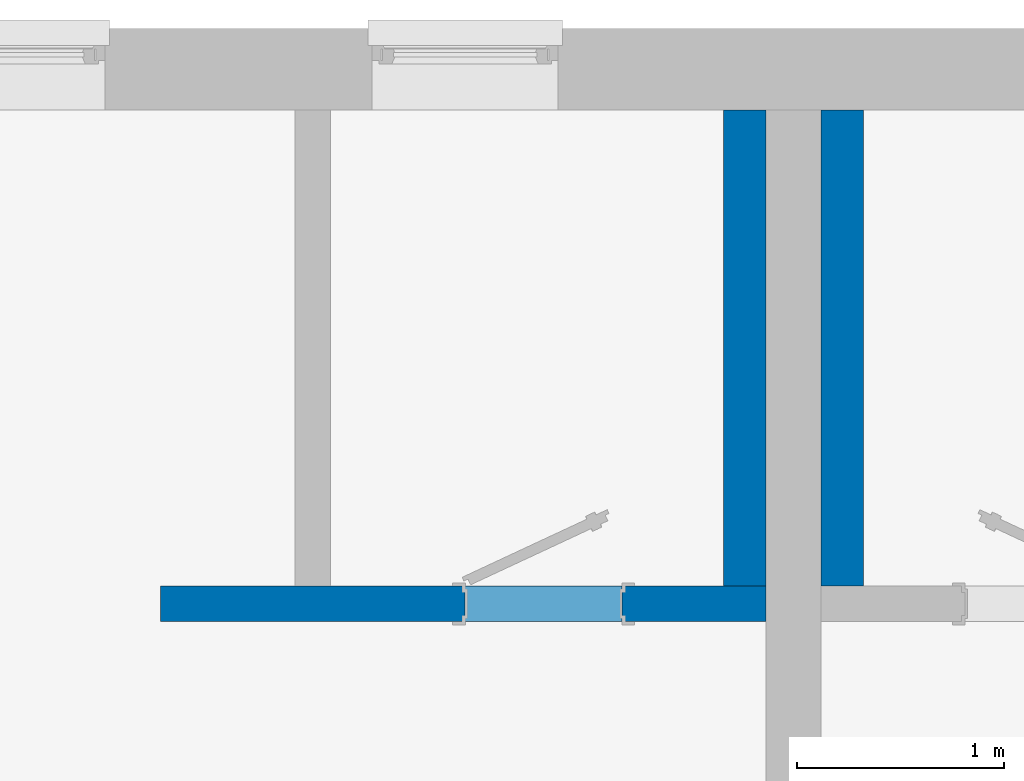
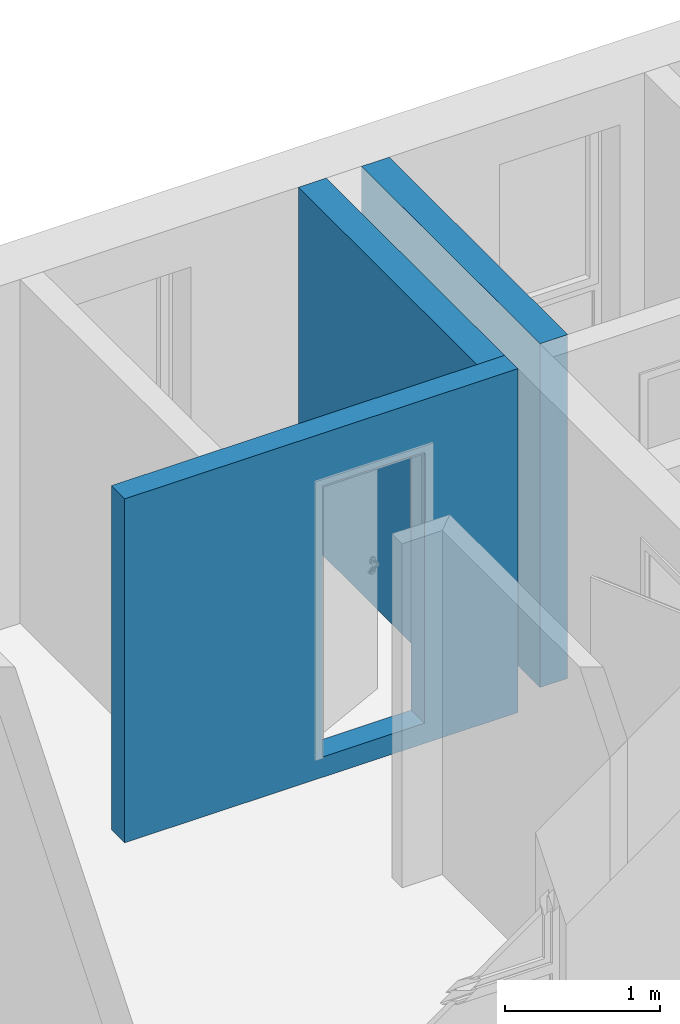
# One storey, part 8 of 16: 3 walls, 1 opening.
"""IFC2X3 building model written with IfcOpenShell, lengths in millimetres."""

from ifc_helpers import new_model, si_unit, frame, origin_with_axes, place, context, project, spatial, faceted_brep, material, layer, layer_set, layer_usage, element, save


model = new_model("IFC2X3")

# Units and contexts
model_context = context("Model", 3, world=origin_with_axes())
ifc_project = project(units=[si_unit("LENGTHUNIT", "METRE", prefix="MILLI")], contexts=[model_context])

# Site, building, storey
site_placement = place(None, origin_with_axes())
site = spatial("IfcSite", under=ifc_project, at=site_placement, Name="Site", CompositionType="ELEMENT")
building_placement = place(site_placement, origin_with_axes())
building = spatial("IfcBuilding", under=site, at=building_placement, Name="?", CompositionType="ELEMENT")
storey_placement = place(building_placement, frame((0.0, 0.0, 2969.0), z_axis=(0.0, 0.0, 1.0), x_axis=(1.0, 0.0, 0.0)))
storey = spatial("IfcBuildingStorey", under=building, at=storey_placement, Name="Obergeschoß 1", CompositionType="ELEMENT", Elevation=2969.0)

# Wall
ifc_material = material(Name="Material_IW")
ifc_layer_1 = layer(ifc_material, 206.0, ventilated=False)
ifc_layer_set_1 = layer_set([ifc_layer_1], Name="MaterialLayerSet_IW")
ifc_layer_usage_1 = layer_usage(ifc_layer_set_1, "AXIS2", "NEGATIVE", 103.0)
wall_1_placement = place(storey_placement, frame((9998.0, -2697.0, 0.0), z_axis=(0.0, 0.0, 1.0), x_axis=(0.0, 1.0, 0.0)))
element("IfcWall", 1, at=wall_1_placement, inside=storey, material=ifc_layer_usage_1, Name="IW-28", context=model_context, shape_type="Brep", body=[
    faceted_brep([(2302.0, -103.0, 0.0), (2302.0, -103.0, 2707.0), (0.0, -103.0, 2707.0), (0.0, -103.0, 0.0), (2302.0, 103.0, 0.0), (2302.0, 103.0, 2707.0), (2302.0, -103.0, 2707.0), (2302.0, -103.0, 0.0), (0.0, 103.0, 0.0), (0.0, 103.0, 2707.0), (2302.0, 103.0, 2707.0), (2302.0, 103.0, 0.0), (0.0, -103.0, 0.0), (0.0, -103.0, 2707.0), (0.0, 103.0, 2707.0), (0.0, 103.0, 0.0), (0.0, -103.0, 0.0), (0.0, 103.0, 0.0), (2302.0, 103.0, 0.0), (2302.0, -103.0, 0.0), (0.0, -103.0, 2707.0), (2302.0, -103.0, 2707.0), (2302.0, 103.0, 2707.0), (0.0, 103.0, 2707.0)], [[[0, 1, 2, 3]], [[4, 5, 6, 7]], [[8, 9, 10, 11]], [[12, 13, 14, 15]], [[16, 17, 18, 19]], [[20, 21, 22, 23]]]),
])

# Wall, opening
ifc_layer_2 = layer(ifc_material, 172.0, ventilated=False)
ifc_layer_set_2 = layer_set([ifc_layer_2], Name="MaterialLayerSet_IW")
ifc_layer_usage_2 = layer_usage(ifc_layer_set_2, "AXIS2", "NEGATIVE", 86.0)
wall_2_placement = place(storey_placement, frame((9631.0, -2783.0, 0.0), z_axis=(0.0, 0.0, 1.0), x_axis=(-1.0, 0.0, 0.0)))
wall_2 = element("IfcWall", 2, at=wall_2_placement, inside=storey, material=ifc_layer_usage_2, Name="IW-30", context=model_context, shape_type="Brep", body=[
    faceted_brep([(2928.0, -86.0, 0.0), (2928.0, -86.0, 2707.0), (0.0, -86.0, 2707.0), (0.0, -86.0, 0.0), (2928.0, 86.0, 0.0), (2928.0, 86.0, 2707.0), (2928.0, -86.0, 2707.0), (2928.0, -86.0, 0.0), (0.0, 86.0, 0.0), (0.0, 86.0, 2707.0), (2928.0, 86.0, 2707.0), (2928.0, 86.0, 0.0), (0.0, -86.0, 0.0), (0.0, -86.0, 2707.0), (0.0, 86.0, 2707.0), (0.0, 86.0, 0.0), (0.0, -86.0, 0.0), (0.0, 86.0, 0.0), (2928.0, 86.0, 0.0), (2928.0, -86.0, 0.0), (0.0, -86.0, 2707.0), (2928.0, -86.0, 2707.0), (2928.0, 86.0, 2707.0), (0.0, 86.0, 2707.0)], [[[0, 1, 2, 3]], [[4, 5, 6, 7]], [[8, 9, 10, 11]], [[12, 13, 14, 15]], [[16, 17, 18, 19]], [[20, 21, 22, 23]]]),
])
opening_placement = place(wall_2_placement, frame((696.0, 0.0, 160.0), z_axis=(0.0, 0.0, 1.0), x_axis=(1.0, 0.0, 0.0)))
element("IfcOpeningElement", 3, at=opening_placement, cuts=wall_2, Name="IW-30|IT13", context=model_context, shape_type="Brep", body=[
    faceted_brep([(0.0, 96.0, 0.0), (0.0, 96.0, 2135.0), (759.999511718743, 96.0, 2135.0), (759.999511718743, 96.0, 0.0), (0.0, -96.0, 0.0), (0.0, -96.0, 2135.0), (0.0, 96.0, 2135.0), (0.0, 96.0, 0.0), (760.000000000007, -96.0, 0.0), (0.0, -96.0, 0.0), (0.0, 96.0, 0.0), (759.999511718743, 96.0, 0.0), (760.000000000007, -96.0, 2135.0), (760.000000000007, -96.0, 0.0), (759.999511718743, 96.0, 0.0), (759.999511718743, 96.0, 2135.0), (0.0, -96.0, 2135.0), (760.000000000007, -96.0, 2135.0), (759.999511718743, 96.0, 2135.0), (0.0, 96.0, 2135.0), (0.0, -96.0, 0.0), (760.000000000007, -96.0, 0.0), (760.000000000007, -96.0, 2135.0), (0.0, -96.0, 2135.0)], [[[0, 1, 2, 3]], [[4, 5, 6, 7]], [[8, 9, 10, 11]], [[12, 13, 14, 15]], [[16, 17, 18, 19]], [[20, 21, 22, 23]]]),
])

# Wall
wall_3_placement = place(storey_placement, frame((9528.0, -395.0, 0.0), z_axis=(0.0, 0.0, 1.0), x_axis=(0.0, -1.0, 0.0)))
element("IfcWall", 4, at=wall_3_placement, inside=storey, material=ifc_layer_usage_1, Name="IW-32", context=model_context, shape_type="Brep", body=[
    faceted_brep([(2302.0, -103.0, 0.0), (2302.0, -103.0, 2707.0), (0.0, -103.0, 2707.0), (0.0, -103.0, 0.0), (2302.0, 103.0, 0.0), (2302.0, 103.0, 2707.0), (2302.0, -103.0, 2707.0), (2302.0, -103.0, 0.0), (0.0, 103.0, 0.0), (0.0, 103.0, 2707.0), (2302.0, 103.0, 2707.0), (2302.0, 103.0, 0.0), (0.0, -103.0, 0.0), (0.0, -103.0, 2707.0), (0.0, 103.0, 2707.0), (0.0, 103.0, 0.0), (0.0, -103.0, 0.0), (0.0, 103.0, 0.0), (2302.0, 103.0, 0.0), (2302.0, -103.0, 0.0), (0.0, -103.0, 2707.0), (2302.0, -103.0, 2707.0), (2302.0, 103.0, 2707.0), (0.0, 103.0, 2707.0)], [[[0, 1, 2, 3]], [[4, 5, 6, 7]], [[8, 9, 10, 11]], [[12, 13, 14, 15]], [[16, 17, 18, 19]], [[20, 21, 22, 23]]]),
])

save(model, "model.ifc")
